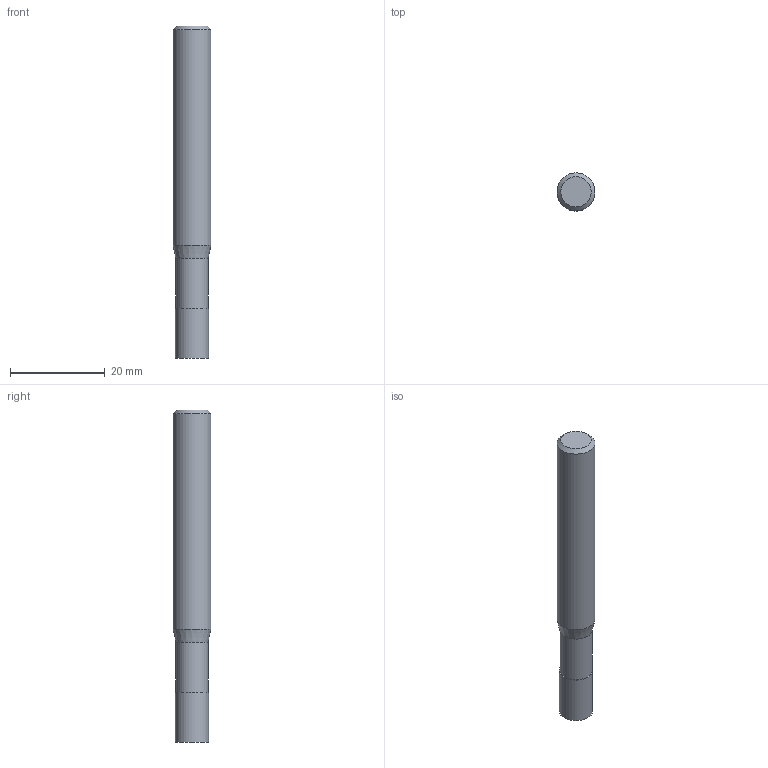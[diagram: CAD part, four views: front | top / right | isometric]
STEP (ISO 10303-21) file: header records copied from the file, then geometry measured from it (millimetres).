
FILE_DESCRIPTION((''),'2;1');
FILE_NAME('C:\Users\nsx150\AppData\Local\Temp\Mastercam 2021\EUJSUNXURU\TEMP.step','2021-04-22T10:29:06',(''),(''),'STEP Write','Mastercam 2021 ... CNC Software, Inc.','');
FILE_SCHEMA(('AUTOMOTIVE_DESIGN'));
Length unit declared in the file: millimetre
Products named in the file (1): None
Bounding box: 8 x 8 x 70 mm (x, y, z)
Volume: 3220.7 mm3; surface area: 1833.8 mm2
Topology: 2 solids, 2 shells, 9 faces, 12 edges, 7 vertices
Faces by surface type: plane 4, cylinder 3, cone 2
Full cylindrical faces by diameter (mm): 6.8 x1, 7 x1, 8 x1
Entity records: 211 total; most frequent: DIRECTION 36, CARTESIAN_POINT 25, AXIS2_PLACEMENT_3D 18, ORIENTED_EDGE 14, EDGE_LOOP 14, STYLED_ITEM 12, ADVANCED_FACE 9, FACE_BOUND 8
